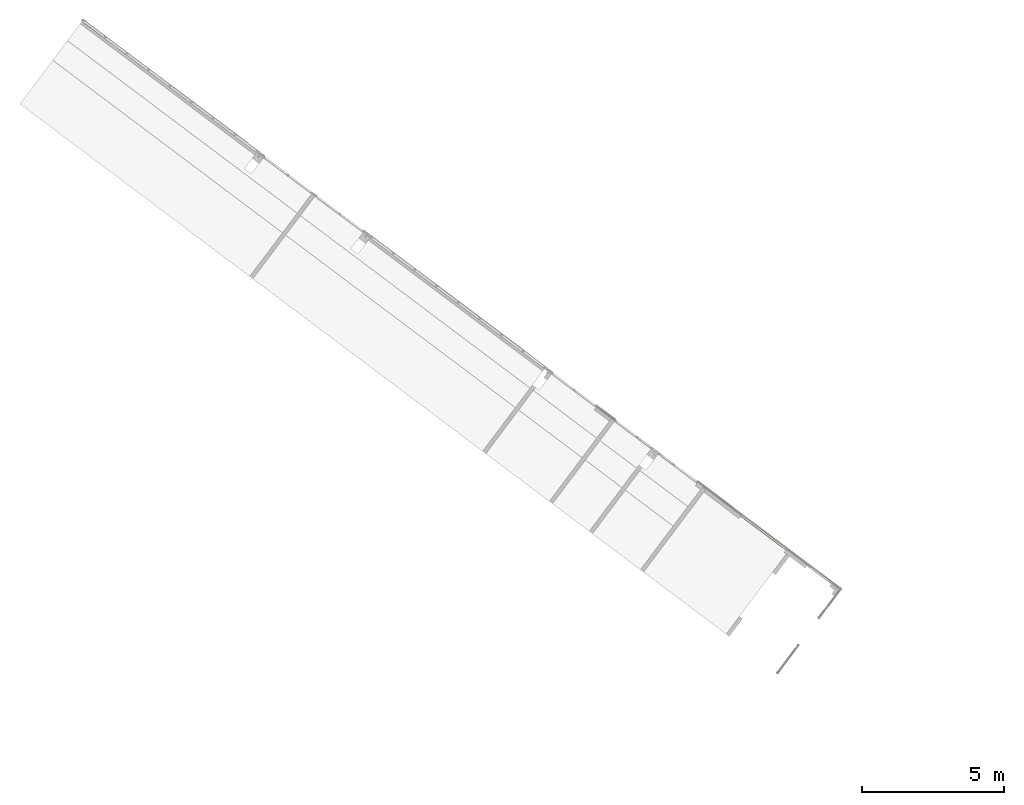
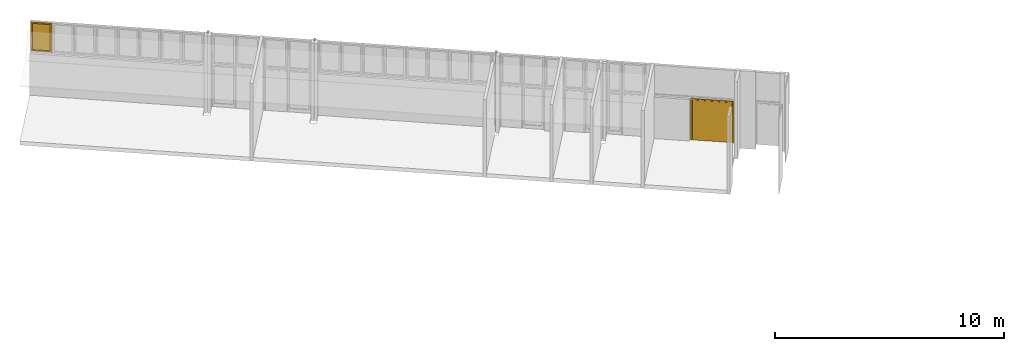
# One storey, part 18 of 18: 1 door, 1 window, 2 elements without a shape of their own.
"""IFC2X3 building model written with IfcOpenShell, lengths in metres."""

from ifc_helpers import new_model, entity, si_unit, converted_unit, derived_unit, direction, frame, origin, place, context, subcontext, project, spatial, faceted_brep, source, transform, mapped, material, material_list, type_object, type_shapes, element, aggregate, save


model = new_model("IFC2X3")

# Units and contexts
model_context = context("Model", 3, precision=1e-05, world=origin(), true_north=direction((6.123031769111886e-17, 1.0)))
body_context = subcontext(model_context, "Body", "Model", "MODEL_VIEW")
ifc_project = project(units=[si_unit("LENGTHUNIT", "METRE"), si_unit("AREAUNIT", "SQUARE_METRE"), si_unit("VOLUMEUNIT", "CUBIC_METRE"), converted_unit("PLANEANGLEUNIT", "DEGREE", entity("IfcRatioMeasure", 0.017453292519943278), si_unit("PLANEANGLEUNIT", "RADIAN"), dimensions=[0, 0, 0, 0, 0, 0, 0]), si_unit("MASSUNIT", "GRAM", prefix="KILO"), derived_unit("MASSDENSITYUNIT", [(si_unit("MASSUNIT", "GRAM", prefix="KILO"), 1), (si_unit("LENGTHUNIT", "METRE"), -3)]), derived_unit("IONCONCENTRATIONUNIT", [(si_unit("MASSUNIT", "GRAM", prefix="KILO"), 1), (si_unit("LENGTHUNIT", "METRE"), -3)]), derived_unit("MOMENTOFINERTIAUNIT", [(si_unit("LENGTHUNIT", "METRE"), 4)]), si_unit("TIMEUNIT", "SECOND"), si_unit("FREQUENCYUNIT", "HERTZ"), si_unit("THERMODYNAMICTEMPERATUREUNIT", "DEGREE_CELSIUS"), derived_unit("THERMALTRANSMITTANCEUNIT", [(si_unit("MASSUNIT", "GRAM", prefix="KILO"), 1), (si_unit("THERMODYNAMICTEMPERATUREUNIT", "KELVIN"), -1), (si_unit("TIMEUNIT", "SECOND"), -3)]), derived_unit("THERMALCONDUCTANCEUNIT", [(si_unit("MASSUNIT", "GRAM", prefix="KILO"), 1), (si_unit("THERMODYNAMICTEMPERATUREUNIT", "KELVIN"), -1), (si_unit("TIMEUNIT", "SECOND"), -3), (si_unit("LENGTHUNIT", "METRE"), 1)]), derived_unit("VOLUMETRICFLOWRATEUNIT", [(si_unit("LENGTHUNIT", "METRE"), 3), (si_unit("TIMEUNIT", "SECOND"), -1)]), derived_unit("MASSFLOWRATEUNIT", [(si_unit("MASSUNIT", "GRAM", prefix="KILO"), 1), (si_unit("TIMEUNIT", "SECOND"), -1)]), derived_unit("ROTATIONALFREQUENCYUNIT", [(si_unit("TIMEUNIT", "SECOND"), -1)]), si_unit("ELECTRICCURRENTUNIT", "AMPERE"), si_unit("ELECTRICVOLTAGEUNIT", "VOLT"), si_unit("POWERUNIT", "WATT"), si_unit("FORCEUNIT", "NEWTON", prefix="KILO"), si_unit("ILLUMINANCEUNIT", "LUX"), si_unit("LUMINOUSFLUXUNIT", "LUMEN"), si_unit("LUMINOUSINTENSITYUNIT", "CANDELA"), derived_unit("USERDEFINED", [(si_unit("MASSUNIT", "GRAM", prefix="KILO"), -1), (si_unit("LENGTHUNIT", "METRE"), -2), (si_unit("TIMEUNIT", "SECOND"), 3), (si_unit("LUMINOUSFLUXUNIT", "LUMEN"), 1)]), derived_unit("USERDEFINED", [(si_unit("MASSUNIT", "GRAM", prefix="KILO"), 1), (si_unit("TIMEUNIT", "SECOND"), -3), (si_unit("LENGTHUNIT", "METRE"), 3), (si_unit("ELECTRICCURRENTUNIT", "AMPERE"), -2)]), derived_unit("SOUNDPOWERUNIT", [(si_unit("MASSUNIT", "GRAM", prefix="KILO"), 1), (si_unit("TIMEUNIT", "SECOND"), -3), (si_unit("LENGTHUNIT", "METRE"), 2)]), derived_unit("SOUNDPRESSUREUNIT", [(si_unit("MASSUNIT", "GRAM", prefix="KILO"), 1), (si_unit("LENGTHUNIT", "METRE"), -1), (si_unit("TIMEUNIT", "SECOND"), -2)]), derived_unit("LINEARVELOCITYUNIT", [(si_unit("LENGTHUNIT", "METRE"), 1), (si_unit("TIMEUNIT", "SECOND"), -1)]), si_unit("PRESSUREUNIT", "PASCAL"), derived_unit("USERDEFINED", [(si_unit("MASSUNIT", "GRAM", prefix="KILO"), 1), (si_unit("LENGTHUNIT", "METRE"), -2), (si_unit("TIMEUNIT", "SECOND"), -2)]), derived_unit("LINEARFORCEUNIT", [(si_unit("MASSUNIT", "GRAM", prefix="KILO"), 1), (si_unit("TIMEUNIT", "SECOND"), -2)]), derived_unit("PLANARFORCEUNIT", [(si_unit("MASSUNIT", "GRAM", prefix="KILO"), 1), (si_unit("LENGTHUNIT", "METRE"), -1), (si_unit("TIMEUNIT", "SECOND"), -2)]), derived_unit("SPECIFICHEATCAPACITYUNIT", [(si_unit("THERMODYNAMICTEMPERATUREUNIT", "KELVIN"), -1), (si_unit("LENGTHUNIT", "METRE"), 2), (si_unit("TIMEUNIT", "SECOND"), -2)]), derived_unit("HEATINGVALUEUNIT", [(si_unit("LENGTHUNIT", "METRE"), 2), (si_unit("TIMEUNIT", "SECOND"), -2)]), derived_unit("VAPORPERMEABILITYUNIT", [(si_unit("LENGTHUNIT", "METRE"), -1), (si_unit("TIMEUNIT", "SECOND"), 1)]), derived_unit("DYNAMICVISCOSITYUNIT", [(si_unit("MASSUNIT", "GRAM", prefix="KILO"), 1), (si_unit("TIMEUNIT", "SECOND"), -1), (si_unit("LENGTHUNIT", "METRE"), -1)]), derived_unit("THERMALEXPANSIONCOEFFICIENTUNIT", [(si_unit("THERMODYNAMICTEMPERATUREUNIT", "KELVIN"), -1)]), derived_unit("MODULUSOFELASTICITYUNIT", [(si_unit("MASSUNIT", "GRAM", prefix="KILO"), 1), (si_unit("LENGTHUNIT", "METRE"), -1), (si_unit("TIMEUNIT", "SECOND"), -2)]), derived_unit("ISOTHERMALMOISTURECAPACITYUNIT", [(si_unit("LENGTHUNIT", "METRE"), 3), (si_unit("MASSUNIT", "GRAM", prefix="KILO"), -1)]), derived_unit("MOISTUREDIFFUSIVITYUNIT", [(si_unit("TIMEUNIT", "SECOND"), -1), (si_unit("LENGTHUNIT", "METRE"), 2)])], contexts=[model_context])

# Site, building, storey
site_placement = place(None, frame((0.0, 0.0, 235.0), z_axis=(0.0, 0.0, 1.0), x_axis=(-0.7996477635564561, 0.6004693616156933, 0.0)))
site = spatial("IfcSite", under=ifc_project, at=site_placement, Name="Default", CompositionType="ELEMENT")
building_placement = place(site_placement, origin())
building = spatial("IfcBuilding", under=site, at=building_placement, CompositionType="ELEMENT")
storey_placement = place(building_placement, frame((0.0, 0.0, -4.459999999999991)))
storey = spatial("IfcBuildingStorey", under=building, at=storey_placement, Name="PS1- Vestuari", CompositionType="ELEMENT", Elevation=-4.459999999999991)

# Curtain wall, window
curtain_wall_type = type_object("IfcCurtainWallType", Name="Muro cortina:MC- EXT- AL6", PredefinedType="NOTDEFINED")
curtain_wall_1_placement = place(storey_placement, frame((0.0, 0.0, 4.459999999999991)))
curtain_wall_1 = element("IfcCurtainWall", 1, at=curtain_wall_1_placement, inside=storey, type_object=curtain_wall_type, Name="Muro cortina:MC- EXT- AL6", ObjectType="Muro cortina:MC- EXT- AL6")
ifc_material_1 = material(Name="_Vidre")
ifc_material_2 = material(Name="_Alumini- T1- Perfil")
ifc_material_list = material_list([ifc_material_1, ifc_material_2])
window_style = type_object("IfcWindowStyle", Name="MC- Alu- Conjunt finestra basculant- 68x68 cm:MC- Alu- Conjunt finestra basculant- 68x68 cm", ConstructionType="NOTDEFINED", OperationType="NOTDEFINED", ParameterTakesPrecedence=False, Sizeable=False, material=ifc_material_list)
shared_shape_1 = source(origin(), body_context, "Body", "Brep", [
    faceted_brep([(0.4029117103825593, -0.0355983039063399, 0.051999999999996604), (-0.4029117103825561, -0.035598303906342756, 0.051999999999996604), (-0.40291171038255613, -0.011598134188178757, 0.051999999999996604), (0.4029117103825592, -0.011598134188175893, 0.051999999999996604), (0.4029117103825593, -0.0355983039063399, 1.4953027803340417), (0.4029117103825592, -0.011598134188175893, 1.4953027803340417), (-0.4029117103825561, -0.011598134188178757, 1.4953027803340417), (-0.4029117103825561, -0.035598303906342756, 1.4953027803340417)], [[[0, 1, 2, 3]], [[4, 0, 3, 5]], [[5, 3, 2, 6]], [[6, 2, 1, 7]], [[7, 1, 0, 4]], [[4, 5, 6, 7]]]),
    faceted_brep([(-0.3872108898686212, -0.009998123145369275, 1.4796019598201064), (-0.38721088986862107, -0.009998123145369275, 0.06789804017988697), (-0.38721088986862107, -0.007998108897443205, 0.06789804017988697), (-0.38721088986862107, -0.007998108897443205, 1.4796019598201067), (-0.4161089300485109, -0.007998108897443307, 1.5084999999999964), (0.41610893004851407, -0.00799810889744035, 1.5084999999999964), (0.41610893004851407, -0.00799810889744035, 0.03899999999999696), (-0.4161089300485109, -0.007998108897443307, 0.03899999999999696), (0.3872108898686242, -0.007998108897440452, 1.4796019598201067), (0.3872108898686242, -0.007998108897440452, 0.06789804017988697), (0.3872108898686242, -0.009998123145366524, 0.06789804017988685), (0.3872108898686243, -0.009998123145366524, 1.4796019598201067), (0.40291171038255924, -0.009998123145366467, 1.4953027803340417), (-0.40291171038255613, -0.00999812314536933, 1.4953027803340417), (-0.40291171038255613, -0.00999812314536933, 0.05219721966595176), (0.40291171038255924, -0.009998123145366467, 0.05219721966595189), (-0.40291171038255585, -0.04079986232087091, 1.4953027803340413), (-0.402911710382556, -0.04079986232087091, 0.05219721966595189), (0.4029117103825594, -0.040799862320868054, 0.05219721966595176), (0.4029117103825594, -0.040799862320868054, 1.4953027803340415), (0.3872108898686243, -0.0407998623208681, 1.4796019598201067), (-0.3872108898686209, -0.040799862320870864, 1.4796019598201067), (-0.3872108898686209, -0.040799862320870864, 0.06789804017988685), (0.3872108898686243, -0.0407998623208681, 0.06789804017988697), (-0.38721088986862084, -0.06800005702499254, 1.4796019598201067), (-0.38721088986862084, -0.06800005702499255, 0.06789804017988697), (0.38721088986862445, -0.0680000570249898, 0.06789804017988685), (0.38721088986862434, -0.06800005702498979, 1.4796019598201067), (0.43361289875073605, -0.06800005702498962, 1.5260039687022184), (-0.43361289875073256, -0.0680000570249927, 1.5260039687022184), (-0.43361289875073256, -0.0680000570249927, 0.021496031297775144), (0.43361289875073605, -0.06800005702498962, 0.021496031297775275), (-0.43361289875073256, -0.0645000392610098, 1.5260039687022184), (-0.43361289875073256, -0.0645000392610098, 0.021496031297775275), (0.43361289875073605, -0.06450003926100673, 0.021496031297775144), (0.43361289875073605, -0.06450003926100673, 1.5260039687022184), (0.41610893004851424, -0.06450003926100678, 1.5084999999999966), (-0.41610893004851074, -0.06450003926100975, 1.5084999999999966), (-0.41610893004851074, -0.06450003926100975, 0.03899999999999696), (0.41610893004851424, -0.06450003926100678, 0.03899999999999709)], [[[0, 1, 2, 3]], [[4, 5, 6, 7], [8, 3, 2, 9]], [[1, 10, 9, 2]], [[0, 11, 10, 1], [12, 13, 14, 15]], [[16, 17, 14, 13]], [[17, 18, 15, 14]], [[16, 19, 18, 17], [20, 21, 22, 23]], [[24, 25, 22, 21]], [[25, 26, 23, 22]], [[24, 27, 26, 25], [28, 29, 30, 31]], [[32, 33, 30, 29]], [[33, 34, 31, 30]], [[32, 35, 34, 33], [36, 37, 38, 39]], [[4, 7, 38, 37]], [[7, 6, 39, 38]], [[10, 11, 8, 9]], [[18, 19, 12, 15]], [[26, 27, 20, 23]], [[34, 35, 28, 31]], [[6, 5, 36, 39]], [[11, 0, 3, 8]], [[19, 16, 13, 12]], [[27, 24, 21, 20]], [[35, 32, 29, 28]], [[5, 4, 37, 36]]], outer=[[True], [True, False], [True], [False, True], [True], [True], [True, False], [True], [True], [False, True], [True], [True], [True, False], [True], [True], [True], [True], [True], [True], [True], [True], [True], [True], [True], [True]]),
    faceted_brep([(0.392193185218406, 0.0, 1.484693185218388), (0.3921931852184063, 0.0, 0.06280681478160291), (0.3921931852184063, -0.0040000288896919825, 0.06280681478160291), (0.3921931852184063, -0.0040000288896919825, 1.4846931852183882), (-0.3921931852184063, -0.0040000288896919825, 1.4846931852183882), (-0.3921931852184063, -0.0040000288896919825, 0.06280681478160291), (0.42759980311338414, -0.0040000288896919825, 1.5200998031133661), (-0.42759980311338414, -0.0040000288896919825, 1.5200998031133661), (-0.42759980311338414, -0.0040000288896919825, 0.027400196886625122), (0.42759980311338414, -0.0040000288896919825, 0.027400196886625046), (-0.3921931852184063, 0.0, 0.06280681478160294), (-0.3921931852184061, 0.0, 1.4846931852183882), (-0.4550000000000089, 0.0, 1.547499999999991), (0.4550000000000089, 0.0, 1.547499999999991), (0.4550000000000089, 0.0, 0.0), (-0.4550000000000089, 0.0, 0.0), (0.4550000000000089, -0.05999999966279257, 1.547499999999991), (0.4550000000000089, -0.05999999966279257, 0.0), (-0.4550000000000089, -0.05999999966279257, 0.0), (-0.4550000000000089, -0.05999999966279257, 1.547499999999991), (-0.42759980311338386, -0.05999999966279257, 1.520099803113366), (0.42759980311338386, -0.05999999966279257, 1.520099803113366), (0.42759980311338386, -0.05999999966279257, 0.02740019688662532), (-0.42759980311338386, -0.05999999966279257, 0.027400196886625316)], [[[0, 1, 2, 3]], [[4, 3, 2, 5], [6, 7, 8, 9]], [[1, 10, 5, 2]], [[0, 11, 10, 1], [12, 13, 14, 15]], [[16, 17, 14, 13]], [[17, 18, 15, 14]], [[16, 19, 18, 17], [20, 21, 22, 23]], [[6, 9, 22, 21]], [[9, 8, 23, 22]], [[10, 11, 4, 5]], [[18, 19, 12, 15]], [[8, 7, 20, 23]], [[11, 0, 3, 4]], [[19, 16, 13, 12]], [[7, 6, 21, 20]]], outer=[[True], [False, True], [True], [False, True], [True], [True], [True, False], [True], [True], [True], [True], [True], [True], [True], [True]]),
])
type_shapes(window_style, [shared_shape_1])
window_placement = place(curtain_wall_1_placement, frame((73.94014768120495, -40.46519175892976, -2.164999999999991), z_axis=(0.0, 0.0, 1.0), x_axis=(-1.0, 0.0, 0.0)))
window = element("IfcWindow", 2, at=window_placement, type_object=window_style, material=ifc_material_list, Name="MC- Alu- Conjunt finestra basculant- 68x68 cm:MC- Alu- Conjunt finestra basculant- 68x68 cm", ObjectType="MC- Alu- Conjunt finestra basculant- 68x68 cm:MC- Alu- Conjunt finestra basculant- 68x68 cm", OverallHeight=1.5474999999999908, OverallWidth=0.9100000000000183, context=body_context, shape_type="MappedRepresentation", body=[
    mapped(shared_shape_1, transform((0.0, 0.0, 0.0), scale=1.0)),
])
aggregate(curtain_wall_1, [window])

# Curtain wall, door
curtain_wall_2_placement = place(storey_placement, frame((0.0, 0.0, 4.459999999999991)))
curtain_wall_2 = element("IfcCurtainWall", 3, at=curtain_wall_2_placement, inside=storey, type_object=curtain_wall_type, Name="Muro cortina:MC- EXT- AL6", ObjectType="Muro cortina:MC- EXT- AL6")
door_style = type_object("IfcDoorStyle", Name="MC- Alu- Conjunt doble porta- 70x60 cm- opaca- obertura ext:MC- Alu- Conjunt doble porta- 70x60 cm- opaca- obertura ext", ConstructionType="NOTDEFINED", OperationType="DOUBLE_DOOR_SINGLE_SWING", ParameterTakesPrecedence=False, Sizeable=False, material=ifc_material_2)
shared_shape_2 = source(origin(), body_context, "Body", "Brep", [
    faceted_brep([(0.0, -2.945720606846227e-07, 0.028000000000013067), (0.0, -0.0699999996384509, 0.028000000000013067), (-0.003999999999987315, -0.06999999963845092, 0.028000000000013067), (-0.003999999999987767, -2.9457206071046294e-07, 0.028000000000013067), (0.0, -2.9457206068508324e-07, 2.152641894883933), (0.0, -0.0699999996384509, 2.152641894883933), (-0.003999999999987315, -0.06999999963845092, 2.152641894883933), (-0.003999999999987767, -2.9457206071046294e-07, 2.152641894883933)], [[[0, 1, 2, 3]], [[4, 5, 1, 0]], [[5, 6, 2, 1]], [[6, 7, 3, 2]], [[7, 4, 0, 3]], [[4, 7, 6, 5]]]),
    faceted_brep([(-0.003999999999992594, -0.06999999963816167, 0.02800000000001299), (-0.8726999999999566, -0.06999999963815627, 0.02800000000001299), (-0.8726999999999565, -0.05499999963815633, 0.02800000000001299), (-0.003999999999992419, -0.054999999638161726, 0.02800000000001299), (-0.003999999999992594, -0.06999999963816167, 2.152641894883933), (-0.8726999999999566, -0.06999999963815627, 2.152641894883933), (-0.8726999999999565, -0.05499999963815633, 2.152641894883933), (-0.003999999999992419, -0.054999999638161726, 2.152641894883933)], [[[0, 1, 2, 3]], [[4, 5, 1, 0]], [[5, 6, 2, 1]], [[6, 7, 3, 2]], [[7, 4, 0, 3]], [[4, 7, 6, 5]]]),
    faceted_brep([(-0.003999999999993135, -2.945720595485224e-07, 0.02800000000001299), (-0.003999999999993, -0.015000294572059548, 0.02800000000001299), (-0.872700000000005, -0.01500029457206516, 0.02800000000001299), (-0.8727000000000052, -2.9457206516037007e-07, 0.02800000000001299), (-0.003999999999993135, -2.9457205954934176e-07, 2.152641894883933), (-0.003999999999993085, -0.015000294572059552, 2.152641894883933), (-0.8727000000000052, -0.01500029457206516, 2.152641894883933), (-0.8727000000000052, -2.9457206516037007e-07, 2.152641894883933)], [[[0, 1, 2, 3]], [[4, 5, 1, 0]], [[5, 6, 2, 1]], [[6, 7, 3, 2]], [[7, 4, 0, 3]], [[4, 7, 6, 5]]]),
    faceted_brep([(0.0, -2.9457206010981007e-07, 0.028000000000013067), (0.004000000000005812, -2.9457206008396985e-07, 0.028000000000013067), (0.004000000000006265, -0.0699999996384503, 0.028000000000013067), (0.0, -0.06999999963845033, 0.028000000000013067), (0.0, -2.9457206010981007e-07, 2.152641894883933), (0.004000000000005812, -2.9457206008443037e-07, 2.152641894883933), (0.004000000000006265, -0.0699999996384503, 2.152641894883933), (0.0, -0.06999999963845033, 2.152641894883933)], [[[0, 1, 2, 3]], [[4, 5, 1, 0]], [[5, 6, 2, 1]], [[6, 7, 3, 2]], [[7, 4, 0, 3]], [[4, 7, 6, 5]]]),
    faceted_brep([(0.004000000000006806, -0.06999999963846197, 0.02800000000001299), (0.0040000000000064, -0.054999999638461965, 0.02800000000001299), (0.8727000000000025, -0.054999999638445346, 0.02800000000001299), (0.8727000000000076, -0.0699999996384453, 0.02800000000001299), (0.004000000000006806, -0.06999999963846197, 2.152641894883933), (0.0040000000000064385, -0.054999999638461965, 2.152641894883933), (0.8727000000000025, -0.054999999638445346, 2.152641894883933), (0.8727000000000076, -0.0699999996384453, 2.152641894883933)], [[[0, 1, 2, 3]], [[4, 5, 1, 0]], [[5, 6, 2, 1]], [[6, 7, 3, 2]], [[7, 4, 0, 3]], [[4, 7, 6, 5]]]),
    faceted_brep([(0.004000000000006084, -2.9457205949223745e-07, 0.02800000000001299), (0.8727000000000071, -2.9457205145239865e-07, 0.02800000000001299), (0.872700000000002, -0.01500029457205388, 0.02800000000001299), (0.00400000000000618, -0.015000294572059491, 0.02800000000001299), (0.00400000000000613, -2.9457205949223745e-07, 2.152641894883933), (0.8727000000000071, -2.9457205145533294e-07, 2.152641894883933), (0.8727000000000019, -0.015000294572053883, 2.152641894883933), (0.00400000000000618, -0.015000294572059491, 2.152641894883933)], [[[0, 1, 2, 3]], [[4, 5, 1, 0]], [[5, 6, 2, 1]], [[6, 7, 3, 2]], [[7, 4, 0, 3]], [[4, 7, 6, 5]]]),
    faceted_brep([(-0.8766999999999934, -0.0699999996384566, 0.024000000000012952), (-0.8766999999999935, -0.004300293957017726, 0.024000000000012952), (0.8767000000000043, -0.004300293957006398, 0.024000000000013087), (0.8767000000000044, -0.06999999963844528, 0.024000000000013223), (-0.8726999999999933, -2.94572062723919e-07, 0.028000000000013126), (-0.8726999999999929, -0.06999999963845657, 0.028000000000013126), (0.8727000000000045, -0.0699999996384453, 0.02800000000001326), (0.8727000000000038, -2.945720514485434e-07, 0.028000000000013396), (-0.9007000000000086, -0.0043002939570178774, 0.0), (-0.9007000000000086, -2.9457206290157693e-07, 0.0), (0.9007000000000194, -2.9457205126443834e-07, 0.0), (0.9007000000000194, -0.00430029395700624, 0.0), (0.9007000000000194, -2.945720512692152e-07, 2.180641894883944), (0.9007000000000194, -0.00430029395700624, 2.180641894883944), (0.8727000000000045, -0.0699999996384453, 2.1526418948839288), (0.8727000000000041, -2.945720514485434e-07, 2.1526418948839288), (0.8767000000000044, -0.004300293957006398, 2.1566418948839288), (0.8767000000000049, -0.06999999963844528, 2.1566418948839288), (-0.9007000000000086, -2.945720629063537e-07, 2.180641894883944), (-0.9007000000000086, -0.0043002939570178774, 2.180641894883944), (-0.8726999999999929, -0.06999999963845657, 2.1526418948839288), (-0.8726999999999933, -2.94572062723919e-07, 2.1526418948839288), (-0.8766999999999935, -0.004300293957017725, 2.1566418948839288), (-0.876699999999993, -0.0699999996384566, 2.1566418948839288)], [[[0, 1, 2, 3]], [[4, 5, 6, 7]], [[8, 9, 10, 11]], [[11, 10, 12, 13]], [[7, 6, 14, 15]], [[3, 2, 16, 17]], [[13, 12, 18, 19]], [[15, 14, 20, 21]], [[17, 16, 22, 23]], [[19, 18, 9, 8]], [[7, 15, 21, 4], [9, 18, 12, 10]], [[11, 13, 19, 8], [1, 22, 16, 2]], [[23, 22, 1, 0]], [[3, 17, 23, 0], [5, 20, 14, 6]], [[21, 20, 5, 4]]], outer=[[True], [True], [True], [True], [True], [True], [True], [True], [True], [True], [False, True], [True, False], [True], [True, False], [True]]),
    faceted_brep([(-0.9499999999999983, 0.0, 0.0), (-0.9087000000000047, 0.0, 0.0), (-0.9087000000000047, -0.010300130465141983, 0.0), (-0.8981999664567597, -0.010300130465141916, 0.0), (-0.8981999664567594, -0.061199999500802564, 0.0), (-0.8827000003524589, -0.06119999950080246, 0.0), (-0.8827000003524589, -0.0699999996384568, 0.0), (-0.949999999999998, -0.06999999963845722, 0.0), (-0.949999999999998, -0.06999999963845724, 2.2299418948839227), (-0.9499999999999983, 0.0, 2.2299418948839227), (-0.882700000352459, -0.0699999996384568, 2.1626418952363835), (0.8827000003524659, -0.0699999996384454, 2.162641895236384), (0.8827000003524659, -0.06999999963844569, 0.0), (0.950000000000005, -0.06999999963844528, 0.0), (0.950000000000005, -0.06999999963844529, 2.2299418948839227), (-0.8827000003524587, -0.06119999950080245, 2.1626418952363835), (-0.8981999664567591, -0.06119999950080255, 2.1781418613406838), (0.8981999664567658, -0.06119999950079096, 2.1781418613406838), (0.8981999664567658, -0.061199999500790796, 0.0), (0.8827000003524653, -0.0611999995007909, 0.0), (0.8827000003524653, -0.061199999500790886, 2.1626418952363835), (-0.8981999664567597, -0.010300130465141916, 2.1781418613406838), (-0.9087000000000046, -0.010300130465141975, 2.188641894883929), (0.9087000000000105, -0.010300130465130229, 2.188641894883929), (0.9087000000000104, -0.010300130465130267, 0.0), (0.8981999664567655, -0.010300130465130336, 0.0), (0.8981999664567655, -0.010300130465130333, 2.1781418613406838), (-0.9087000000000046, 0.0, 2.188641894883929), (0.9500000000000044, 0.0, 2.2299418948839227), (0.9500000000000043, 0.0, 0.0), (0.9087000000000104, 0.0, 0.0), (0.9087000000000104, 0.0, 2.188641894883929)], [[[0, 1, 2, 3, 4, 5, 6, 7]], [[7, 8, 9, 0]], [[6, 10, 11, 12, 13, 14, 8, 7]], [[5, 15, 10, 6]], [[4, 16, 17, 18, 19, 20, 15, 5]], [[3, 21, 16, 4]], [[2, 22, 23, 24, 25, 26, 21, 3]], [[1, 27, 22, 2]], [[0, 9, 28, 29, 30, 31, 27, 1]], [[29, 13, 12, 19, 18, 25, 24, 30]], [[31, 30, 24, 23]], [[26, 25, 18, 17]], [[20, 19, 12, 11]], [[14, 13, 29, 28]], [[27, 31, 23, 22]], [[21, 26, 17, 16]], [[15, 20, 11, 10]], [[8, 14, 28, 9]]]),
])
type_shapes(door_style, [shared_shape_2])
door_placement = place(curtain_wall_2_placement, frame((44.398147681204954, -40.46519175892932, -4.479999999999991), z_axis=(0.0, 0.0, 1.0), x_axis=(-1.0, 0.0, 0.0)))
door = element("IfcDoor", 4, at=door_placement, type_object=door_style, material=ifc_material_2, Name="MC- Alu- Conjunt doble porta- 70x60 cm- opaca- obertura ext:MC- Alu- Conjunt doble porta- 70x60 cm- opaca- obertura ext", ObjectType="MC- Alu- Conjunt doble porta- 70x60 cm- opaca- obertura ext:MC- Alu- Conjunt doble porta- 70x60 cm- opaca- obertura ext", OverallHeight=2.2299418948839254, OverallWidth=1.9000000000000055, context=body_context, shape_type="MappedRepresentation", body=[
    mapped(shared_shape_2, transform((0.0, 0.0, 0.0), scale=1.0)),
])
aggregate(curtain_wall_2, [door])

save(model, "model.ifc")
